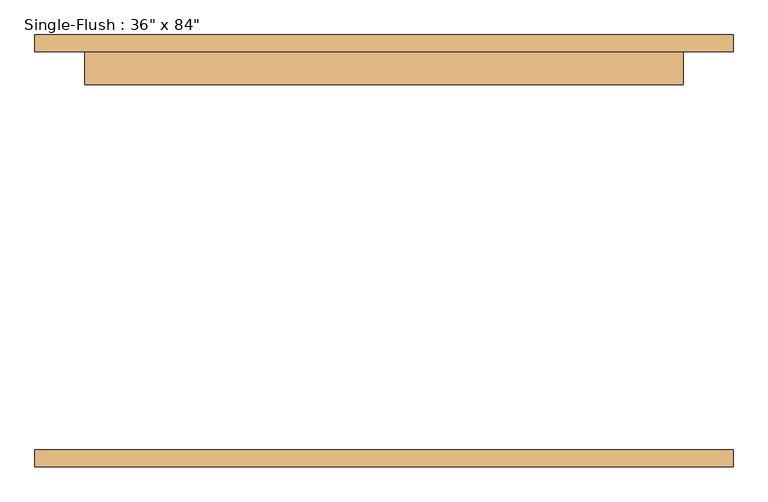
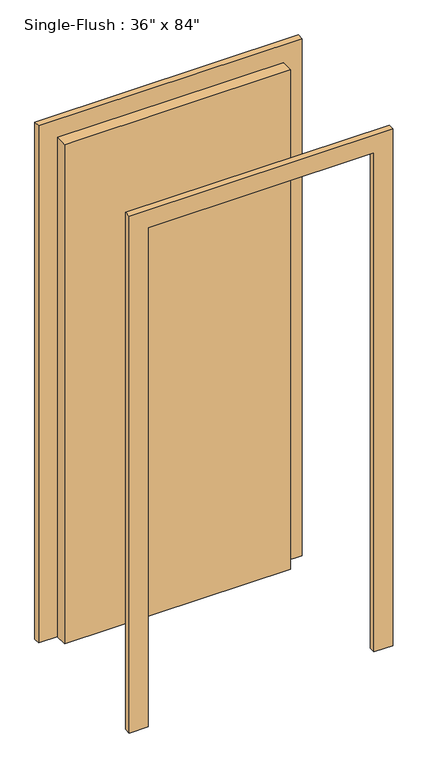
"""IFC4 building model written with IfcOpenShell, lengths in millimetres: door geometry."""

from ifc_helpers import new_model, si_unit, frame, origin, origin_with_axes, place, context, project, spatial, polyline, outline, extrude, source, transform, mapped, element, save


def door_c3c8cf1c(model_context):
    return source(origin(), model_context, "Body", "SweptSolid", [
        extrude(outline(polyline([(2209.8, -533.4), (0.0, -533.4), (0.0, -457.2), (2133.6, -457.2), (2133.6, 457.2), (0.0, 457.2), (0.0, 533.4), (2209.8, 533.4), (2209.8, -533.4)])), frame((0.0, 304.8, 0.0), z_axis=(0.0, 1.0, 0.0), x_axis=(0.0, 0.0, 1.0)), (0.0, 0.0, 1.0), 25.4),
        extrude(outline(polyline([(2209.8, 533.4), (2209.8, -533.4), (0.0, -533.4), (0.0, -457.2), (2133.6, -457.2), (2133.6, 457.2), (0.0, 457.2), (0.0, 533.4), (2209.8, 533.4)])), frame((0.0, -330.2, 0.0), z_axis=(0.0, 1.0, 0.0), x_axis=(0.0, 0.0, 1.0)), (0.0, 0.0, 1.0), 25.4),
        extrude(outline(polyline([(457.2, 254.0), (-457.2, 254.0), (-457.2, 304.8), (457.2, 304.8), (457.2, 254.0)])), origin_with_axes(), (0.0, 0.0, 1.0), 2133.6),
    ])


if __name__ == "__main__":
    model = new_model("IFC4")
    model_context = context("Model", 3, world=origin())
    ifc_project = project(units=[si_unit("LENGTHUNIT", "METRE", prefix="MILLI")], contexts=[model_context])
    site = spatial("IfcSite", under=ifc_project)
    building = spatial("IfcBuilding", under=site)
    placement = place(None, origin())
    door_shape = door_c3c8cf1c(model_context)
    element("IfcDoor", 1, ObjectType="Single-Flush : 36\" x 84\"", at=placement, inside=building, context=model_context, shape_type="MappedRepresentation", body=[
        mapped(door_shape, transform((0.0, 0.0, 0.0), x_axis=(1.0, 0.0, 0.0), y_axis=(0.0, 1.0, 0.0), z_axis=(0.0, 0.0, 1.0))),
    ])
    save(model, "model.ifc")
